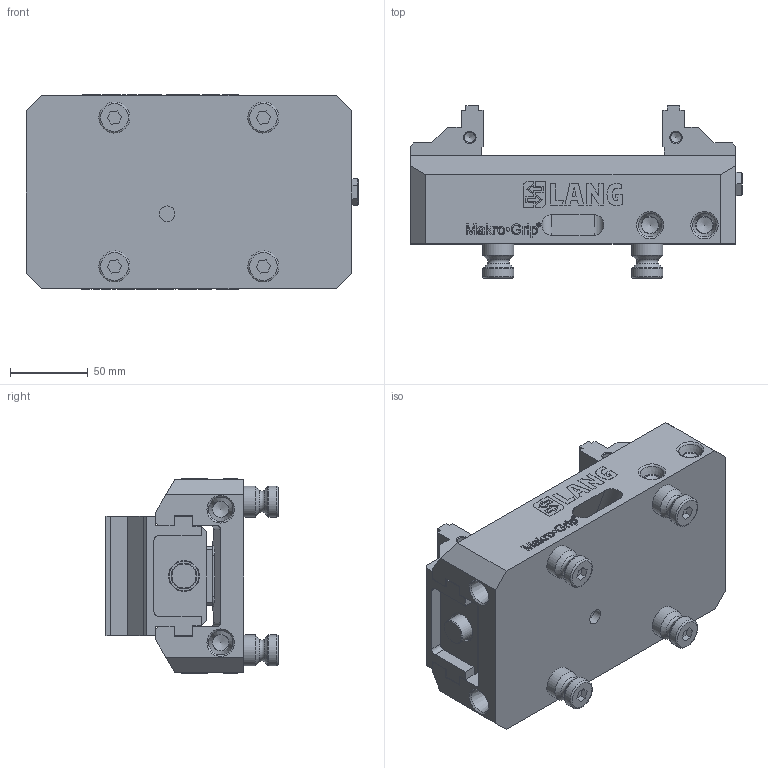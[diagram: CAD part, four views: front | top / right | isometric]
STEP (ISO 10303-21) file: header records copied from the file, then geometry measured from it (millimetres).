
FILE_DESCRIPTION (( 'STEP AP214' ), '1' );
FILE_NAME ('48205-77.STEP', '2020-02-07T13:03:16', ( '' ), ( '' ), 'SwSTEP 2.0', 'SolidWorks 2019', '' );
FILE_SCHEMA (( 'AUTOMOTIVE_DESIGN' ));
Length unit declared in the file: millimetre
Products named in the file (3): 48125-7720; Makro-Grip_48205-77; 48205-77
Assembly tree (3 placements, depth 2):
  48205-77
    Makro-Grip_48205-77
    48125-7720  x2
Bounding box: 214 x 111.01 x 125.24 mm (x, y, z)
Volume: 1176651.5 mm3; surface area: 194775.2 mm2
Topology: 50 solids, 50 shells, 938 faces, 2373 edges, 1558 vertices
Faces by surface type: plane 629, bspline 192, cylinder 54, cone 47, torus 16
Full cylindrical faces by diameter (mm): 6.8 x4, 8.5 x4, 10 x1, 16 x8, 16.5 x1, 20 x12
Entity records: 43550 total; most frequent: CARTESIAN_POINT 13925, ORIENTED_EDGE 4208, DIRECTION 3213, EDGE_CURVE 2104, LINE 1567, VECTOR 1567, VERTEX_POINT 1431, EDGE_LOOP 1019
